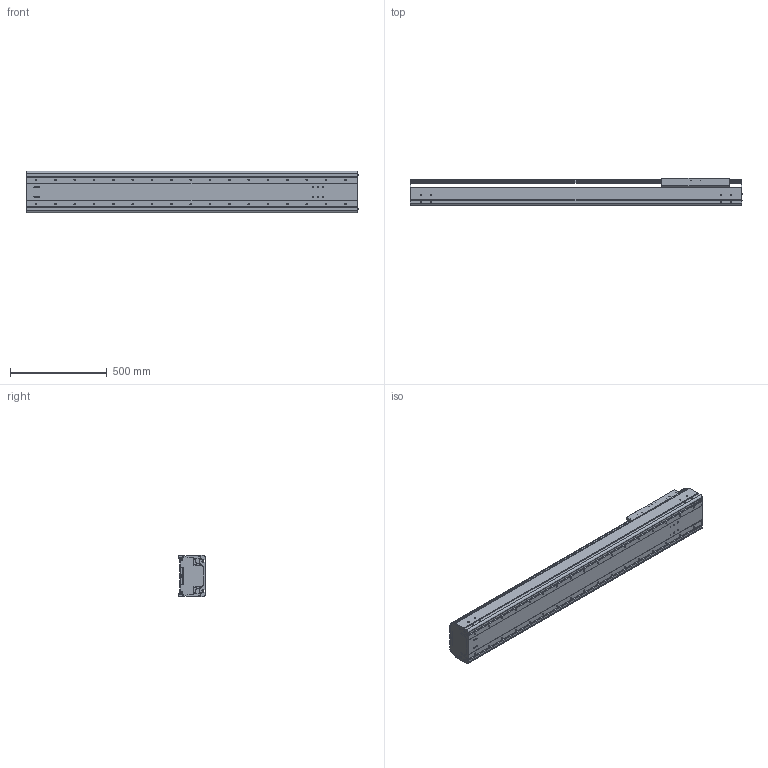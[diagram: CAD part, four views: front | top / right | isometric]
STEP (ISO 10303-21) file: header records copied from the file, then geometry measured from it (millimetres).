
FILE_DESCRIPTION((''),'2;1');
FILE_NAME('BE60G-ST-L_N-C5_IGS_PRT','2017-06-18T',(' '),(''),'PRO/ENGINEER BY PARAMETRIC TECHNOLOGY CORPORATION, 2015030','PRO/ENGINEER BY PARAMETRIC TECHNOLOGY CORPORATION, 2015030','');
FILE_SCHEMA(('CONFIG_CONTROL_DESIGN'));
Length unit declared in the file: millimetre
Products named in the file (1): BE60G-ST-L_N-C5_IGS_PRT
Bounding box: 1717.4 x 140 x 214 mm (x, y, z)
Volume: 13957095.3 mm3; surface area: 3673650.4 mm2
Topology: 2 solids, 162 shells, 1688 faces, 4728 edges, 3104 vertices
Faces by surface type: cylinder 880, plane 632, cone 128, sphere 24, torus 24
Entity records: 56512 total; most frequent: CARTESIAN_POINT 12974, DIRECTION 9140, ORIENTED_EDGE 8568, EDGE_CURVE 4600, AXIS2_PLACEMENT_3D 3427, VERTEX_POINT 3102, VECTOR 2286, LINE 2286
